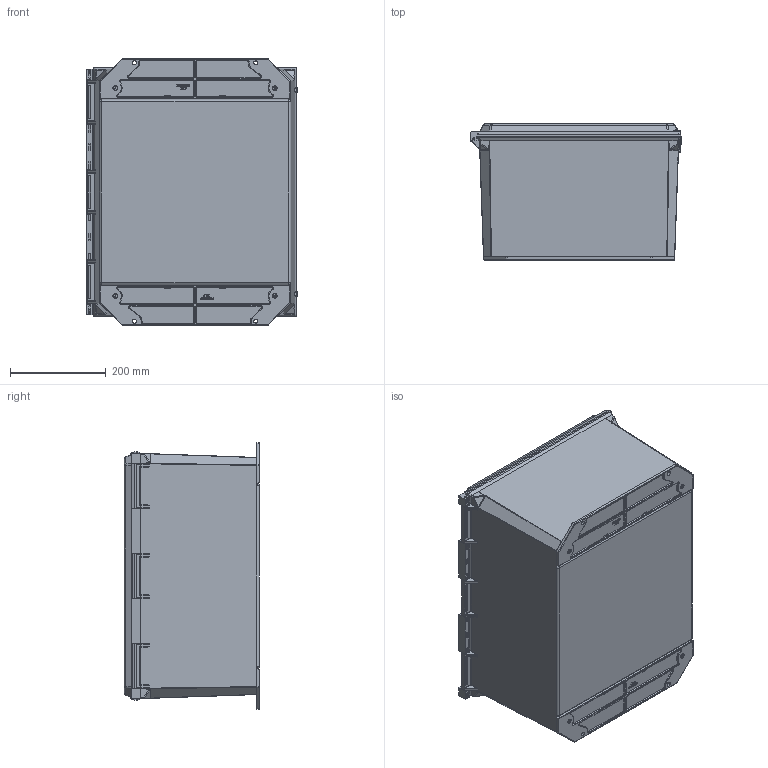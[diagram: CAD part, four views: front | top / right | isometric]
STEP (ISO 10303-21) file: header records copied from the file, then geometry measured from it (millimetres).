
FILE_DESCRIPTION (( 'STEP AP203' ), '1' );
FILE_NAME ('PJU201610HWF.step', '2014-07-14T16:03:02', ( '' ), ( '' ), 'SwSTEP 2.0', 'SolidWorks 2014', '' );
FILE_SCHEMA (( 'CONFIG_CONTROL_DESIGN' ));
Length unit declared in the file: inch
Products named in the file (12): 55-103212; 70-60827-1; 55-1032516_PreviewCfg; 60820-2; 2419001_box; 70-HPIN20316; 2421001_window; AMU2060HWF_default; 70-006ORING; PJU201610HWF; 55-103275316_PreviewCfg; 2427001
Assembly tree (20 placements, depth 3):
  PJU201610HWF
    AMU2060HWF_default
      2419001_box
      2421001_window
      70-006ORING  x2
      55-103275316_PreviewCfg  x2
      2427001  x2
      55-103212  x4
      70-60827-1
      55-1032516_PreviewCfg  x4
      60820-2
      70-HPIN20316
Bounding box: 440.81 x 284.17 x 558.8 mm (x, y, z)
Volume: 5094868.2 mm3; surface area: 2420474.3 mm2
Topology: 19 solids, 19 shells, 3037 faces, 7642 edges, 4807 vertices
Faces by surface type: plane 1458, bspline 648, cylinder 639, torus 124, cone 96, sphere 72
Entity records: 101461 total; most frequent: CARTESIAN_POINT 42921, ORIENTED_EDGE 12938, DIRECTION 10057, EDGE_CURVE 6469, VERTEX_POINT 4083, LINE 3959, VECTOR 3959, AXIS2_PLACEMENT_3D 3049
